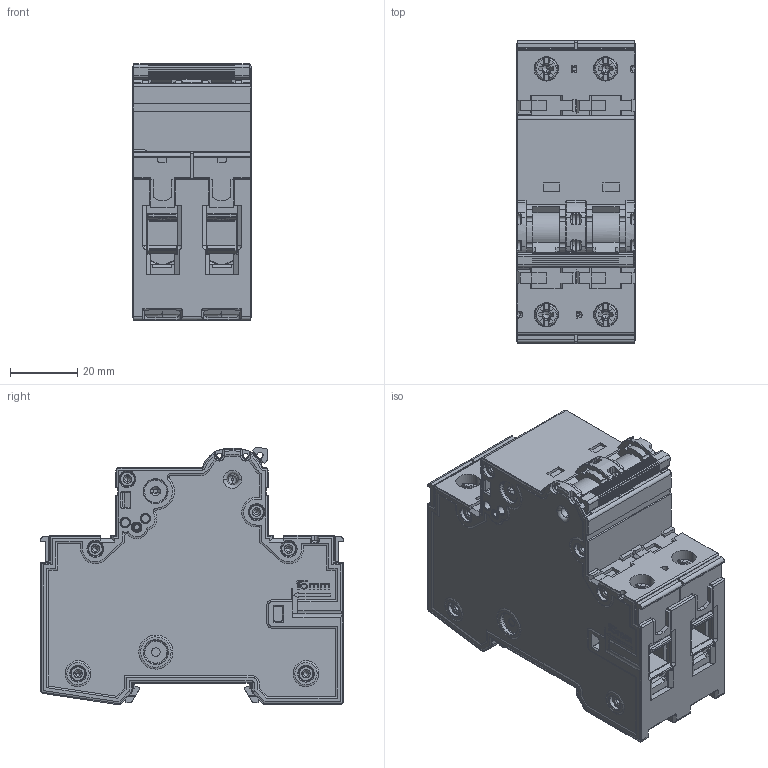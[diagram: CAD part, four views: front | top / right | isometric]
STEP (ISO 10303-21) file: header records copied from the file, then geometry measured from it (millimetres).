
FILE_DESCRIPTION (( 'STEP AP214' ), '1' );
FILE_NAME ('LTE-2.step', '2018-09-05T10:19:03', ( '' ), ( '' ), 'SwSTEP 2.0', 'SolidWorks 2015', '' );
FILE_SCHEMA (( 'AUTOMOTIVE_DESIGN' ));
Length unit declared in the file: millimetre
Products named in the file (1): LTE-2
Bounding box: 35.2 x 89.8 x 76.11 mm (x, y, z)
Volume: 169822 mm3; surface area: 35524.8 mm2
Topology: 5 solids, 5 shells, 2715 faces, 7794 edges, 5119 vertices
Faces by surface type: plane 1616, cylinder 587, cone 211, bspline 172, torus 100, sphere 29
Entity records: 133828 total; most frequent: CARTESIAN_POINT 37887, ORIENTED_EDGE 15490, DIRECTION 11125, EDGE_CURVE 7745, VERTEX_POINT 5111, LINE 4661, VECTOR 4661, AXIS2_PLACEMENT_3D 3232
